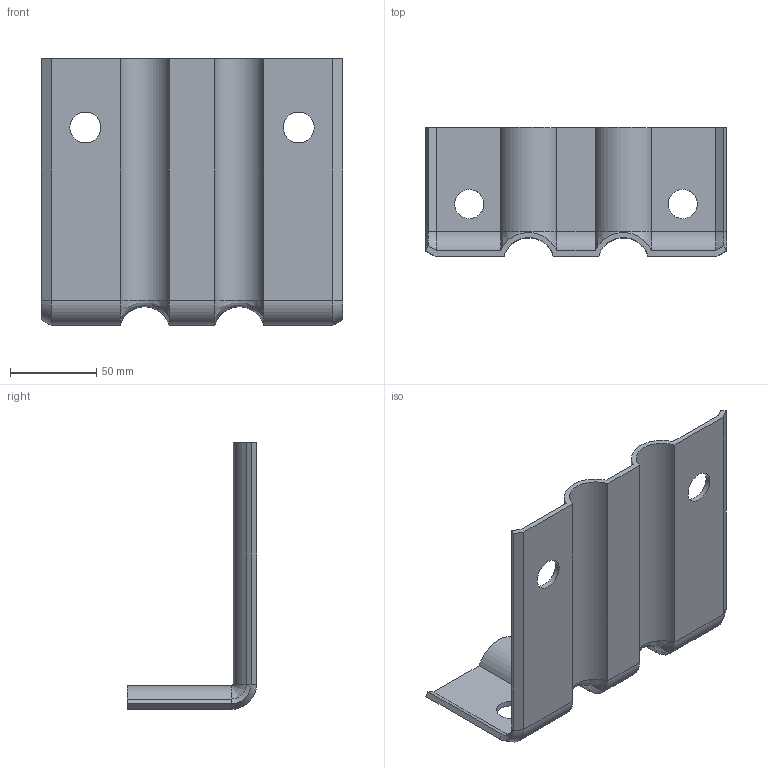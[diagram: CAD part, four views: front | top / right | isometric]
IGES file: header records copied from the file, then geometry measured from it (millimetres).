
Global section: file name: SC220; native system: Autodesk RealDWG; preprocessor: Autodesk Translation Framework DWG producer (atf_dwg_producer); organization: unknown; date: 20241104.101441; units: millimetre
Bounding box: 175 x 75 x 155 mm (x, y, z)
Volume: 126627.2 mm3; surface area: 85095.1 mm2
Topology: 1 solids, 1 shells, 54 faces, 132 edges, 80 vertices
Faces by surface type: bspline 54
